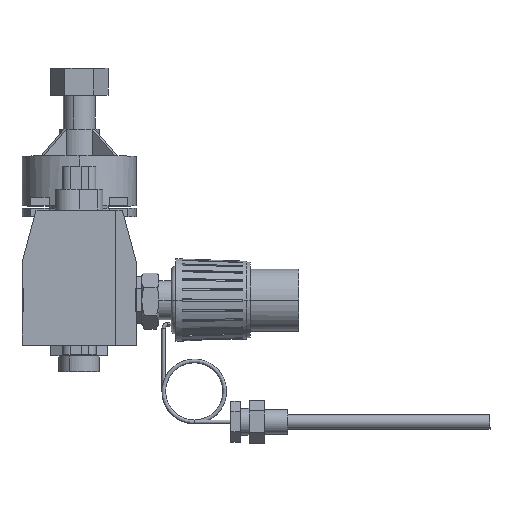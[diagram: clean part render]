
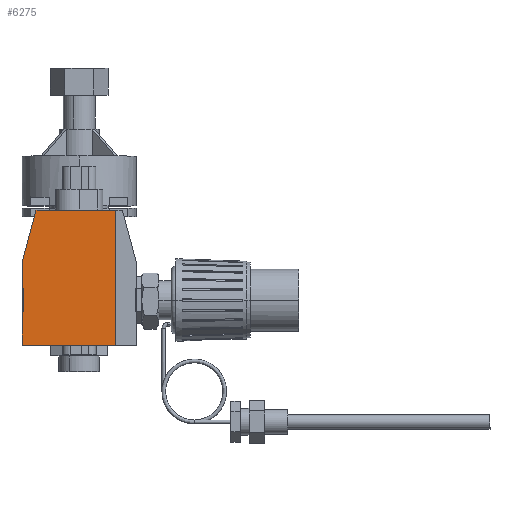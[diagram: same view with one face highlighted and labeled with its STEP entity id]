
A CAD part, top view. The second image highlights one B-rep face of the part: STEP entity #6275.
In plain terms, the highlighted planar face has unit normal (0, 0, 1).
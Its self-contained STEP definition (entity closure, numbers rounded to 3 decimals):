
#163 = DIRECTION ( 'NONE',  ( 1., 0., 0. ) ) ;
#164 = VECTOR ( 'NONE', #163, 1000. ) ;
#165 = CARTESIAN_POINT ( 'NONE',  ( -47., 0., 23.5 ) ) ;
#166 = LINE ( 'NONE', #165, #164 ) ;
#4370 = VERTEX_POINT ( 'NONE', #12015 ) ;
#4372 = EDGE_CURVE ( 'NONE', #4373, #4370, #12014, .T. ) ;
#4373 = VERTEX_POINT ( 'NONE', #12010 ) ;
#6201 = VERTEX_POINT ( 'NONE', #12829 ) ;
#6202 = ORIENTED_EDGE ( 'NONE', *, *, #6267, .T. ) ;
#6203 = ORIENTED_EDGE ( 'NONE', *, *, #6204, .T. ) ;
#6204 = EDGE_CURVE ( 'NONE', #6269, #4373, #12828, .T. ) ;
#6205 = ORIENTED_EDGE ( 'NONE', *, *, #4372, .T. ) ;
#6206 = ORIENTED_EDGE ( 'NONE', *, *, #6207, .T. ) ;
#6207 = EDGE_CURVE ( 'NONE', #4370, #6201, #12824, .T. ) ;
#6267 = EDGE_CURVE ( 'NONE', #6268, #6269, #12632, .T. ) ;
#6268 = VERTEX_POINT ( 'NONE', #12628 ) ;
#6269 = VERTEX_POINT ( 'NONE', #12627 ) ;
#6275 = ADVANCED_FACE ( 'NONE', ( #12747 ), #12746, .F. ) ;
#6415 = EDGE_LOOP ( 'NONE', ( #6416, #6202, #6203, #6205, #6206 ) ) ;
#6416 = ORIENTED_EDGE ( 'NONE', *, *, #6417, .T. ) ;
#6417 = EDGE_CURVE ( 'NONE', #6201, #6268, #166, .T. ) ;
#12010 = CARTESIAN_POINT ( 'NONE',  ( -35.5, 111., 23.5 ) ) ;
#12011 = DIRECTION ( 'NONE',  ( -0.259, -0.966, 0. ) ) ;
#12012 = VECTOR ( 'NONE', #12011, 1000. ) ;
#12013 = CARTESIAN_POINT ( 'NONE',  ( -47., 68.081, 23.5 ) ) ;
#12014 = LINE ( 'NONE', #12013, #12012 ) ;
#12015 = CARTESIAN_POINT ( 'NONE',  ( -47., 68.081, 23.5 ) ) ;
#12627 = CARTESIAN_POINT ( 'NONE',  ( 30., 111., 23.5 ) ) ;
#12628 = CARTESIAN_POINT ( 'NONE',  ( 30., 0., 23.5 ) ) ;
#12629 = DIRECTION ( 'NONE',  ( 0., 1., 0. ) ) ;
#12630 = VECTOR ( 'NONE', #12629, 1000. ) ;
#12631 = CARTESIAN_POINT ( 'NONE',  ( 30., 0., 23.5 ) ) ;
#12632 = LINE ( 'NONE', #12631, #12630 ) ;
#12742 = DIRECTION ( 'NONE',  ( -1., 0., 0. ) ) ;
#12743 = DIRECTION ( 'NONE',  ( 0., 0., -1. ) ) ;
#12744 = CARTESIAN_POINT ( 'NONE',  ( 47., 0., 23.5 ) ) ;
#12745 = AXIS2_PLACEMENT_3D ( 'NONE', #12744, #12743, #12742 ) ;
#12746 = PLANE ( 'NONE',  #12745 ) ;
#12747 = FACE_OUTER_BOUND ( 'NONE', #6415, .T. ) ;
#12821 = DIRECTION ( 'NONE',  ( 0., -1., 0. ) ) ;
#12822 = VECTOR ( 'NONE', #12821, 1000. ) ;
#12823 = CARTESIAN_POINT ( 'NONE',  ( -47., 0., 23.5 ) ) ;
#12824 = LINE ( 'NONE', #12823, #12822 ) ;
#12825 = DIRECTION ( 'NONE',  ( -1., 0., 0. ) ) ;
#12826 = VECTOR ( 'NONE', #12825, 1000. ) ;
#12827 = CARTESIAN_POINT ( 'NONE',  ( 35.5, 111., 23.5 ) ) ;
#12828 = LINE ( 'NONE', #12827, #12826 ) ;
#12829 = CARTESIAN_POINT ( 'NONE',  ( -47., 0., 23.5 ) ) ;
